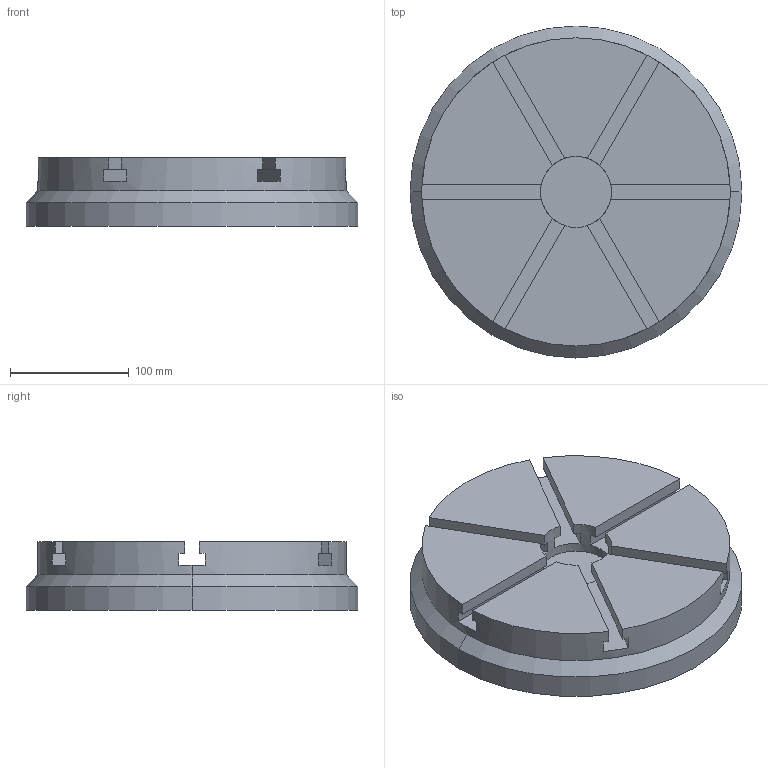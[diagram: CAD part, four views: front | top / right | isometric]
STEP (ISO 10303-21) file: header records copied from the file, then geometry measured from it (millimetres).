
FILE_DESCRIPTION (( 'STEP AP203' ), '1' );
FILE_NAME ('plateau.STEP', '2009-12-04T11:22:13', ( 'Famille Couzi' ), ( '' ), 'SwSTEP 2.0', 'SolidWorks 2005143', '' );
FILE_SCHEMA (( 'CONFIG_CONTROL_DESIGN' ));
Length unit declared in the file: millimetre
Products named in the file (1): plateau
Bounding box: 280 x 280 x 58 mm (x, y, z)
Volume: 3006942.1 mm3; surface area: 204656.1 mm2
Topology: 1 solids, 1 shells, 58 faces, 164 edges, 108 vertices
Faces by surface type: plane 50, cylinder 6, cone 2
Entity records: 1973 total; most frequent: DIRECTION 342, CARTESIAN_POINT 331, ORIENTED_EDGE 328, EDGE_CURVE 164, AXIS2_PLACEMENT_3D 119, VERTEX_POINT 108, VECTOR 104, LINE 104
